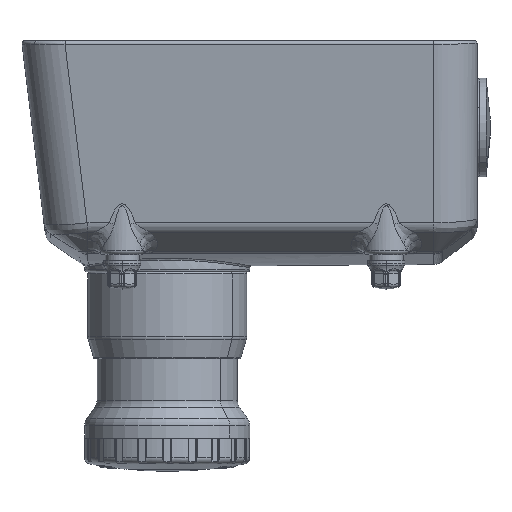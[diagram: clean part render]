
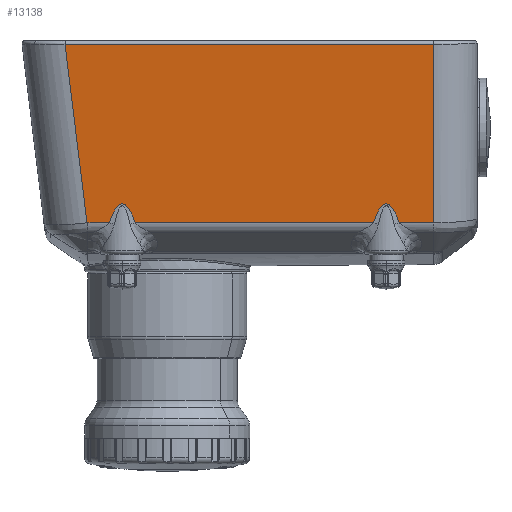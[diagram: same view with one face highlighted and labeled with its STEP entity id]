
A CAD part, left-side view. The second image highlights one B-rep face of the part: STEP entity #13138.
In plain terms, the highlighted planar face has unit normal (-0.993, 0, -0.122).
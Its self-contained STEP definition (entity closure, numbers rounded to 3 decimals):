
#85 = VECTOR ( 'NONE', #120199, 1000. ) ;
#894 = DIRECTION ( 'NONE',  ( 0., -1., 0. ) ) ;
#1217 = DIRECTION ( 'NONE',  ( -0.122, 0., 0.993 ) ) ;
#5094 = EDGE_CURVE ( 'NONE', #46659, #27087, #105774, .T. ) ;
#8023 = ORIENTED_EDGE ( 'NONE', *, *, #119139, .T. ) ;
#10262 = CARTESIAN_POINT ( 'NONE',  ( -33.964, 100.172, -44.091 ) ) ;
#11808 = CARTESIAN_POINT ( 'NONE',  ( -39.378, -43.5, 0. ) ) ;
#13113 = VECTOR ( 'NONE', #77561, 1000. ) ;
#13138 = ADVANCED_FACE ( 'NONE', ( #96626 ), #76126, .T. ) ;
#16622 = CARTESIAN_POINT ( 'NONE',  ( -39.281, -43.5, -0.785 ) ) ;
#17928 = EDGE_CURVE ( 'NONE', #114883, #92971, #39530, .T. ) ;
#18949 = CARTESIAN_POINT ( 'NONE',  ( -34.722, -30.911, -37.923 ) ) ;
#20184 = CARTESIAN_POINT ( 'NONE',  ( -34.722, -33.089, -37.923 ) ) ;
#20297 = VERTEX_POINT ( 'NONE', #66901 ) ;
#26913 = EDGE_CURVE ( 'NONE', #84987, #37328, #79736, .T. ) ;
#27087 = VERTEX_POINT ( 'NONE', #32953 ) ;
#27215 = CARTESIAN_POINT ( 'NONE',  ( -34.722, 33.089, -37.923 ) ) ;
#32953 = CARTESIAN_POINT ( 'NONE',  ( -33.964, -35.13, -44.091 ) ) ;
#37243 = EDGE_CURVE ( 'NONE', #20297, #56404, #95650, .T. ) ;
#37328 = VERTEX_POINT ( 'NONE', #16622 ) ;
#37973 = ORIENTED_EDGE ( 'NONE', *, *, #37243, .T. ) ;
#38893 = CARTESIAN_POINT ( 'NONE',  ( -33.964, -35.13, -44.091 ) ) ;
#39530 = LINE ( 'NONE', #105552, #13113 ) ;
#42984 = ORIENTED_EDGE ( 'NONE', *, *, #17928, .T. ) ;
#43023 = DIRECTION ( 'NONE',  ( 0., -1., 0. ) ) ;
#46659 = VERTEX_POINT ( 'NONE', #96502 ) ;
#52929 = EDGE_CURVE ( 'NONE', #92971, #20297, #89311, .T. ) ;
#53542 = CARTESIAN_POINT ( 'NONE',  ( -33.964, 40.542, -44.091 ) ) ;
#54035 = CARTESIAN_POINT ( 'NONE',  ( -33.964, 28.87, -44.091 ) ) ;
#54183 = LINE ( 'NONE', #82237, #85 ) ;
#55164 = EDGE_CURVE ( 'NONE', #56404, #46659, #59875, .T. ) ;
#55900 = CARTESIAN_POINT ( 'NONE',  ( -34.722, 30.911, -37.923 ) ) ;
#56404 = VERTEX_POINT ( 'NONE', #57105 ) ;
#57105 = CARTESIAN_POINT ( 'NONE',  ( -33.964, 28.87, -44.091 ) ) ;
#58016 = DIRECTION ( 'NONE',  ( 0.122, 0., -0.993 ) ) ;
#59875 = LINE ( 'NONE', #79184, #69360 ) ;
#65415 = VECTOR ( 'NONE', #894, 1000. ) ;
#66901 = CARTESIAN_POINT ( 'NONE',  ( -33.964, 35.13, -44.091 ) ) ;
#69360 = VECTOR ( 'NONE', #43023, 1000. ) ;
#71241 = DIRECTION ( 'NONE',  ( 0., -1., 0. ) ) ;
#72558 = EDGE_CURVE ( 'NONE', #27087, #84987, #95634, .T. ) ;
#73748 = ORIENTED_EDGE ( 'NONE', *, *, #55164, .T. ) ;
#76126 = PLANE ( 'NONE',  #112338 ) ;
#76313 = CARTESIAN_POINT ( 'NONE',  ( -33.964, -28.87, -44.091 ) ) ;
#77561 = DIRECTION ( 'NONE',  ( 0.121, -0.121, -0.985 ) ) ;
#79184 = CARTESIAN_POINT ( 'NONE',  ( -33.964, 100.172, -44.091 ) ) ;
#79736 = LINE ( 'NONE', #11808, #102746 ) ;
#82237 = CARTESIAN_POINT ( 'NONE',  ( -39.281, 45.956, -0.785 ) ) ;
#82698 = CARTESIAN_POINT ( 'NONE',  ( -33.964, 35.13, -44.091 ) ) ;
#82724 = ORIENTED_EDGE ( 'NONE', *, *, #26913, .T. ) ;
#84987 = VERTEX_POINT ( 'NONE', #91984 ) ;
#87067 = ORIENTED_EDGE ( 'NONE', *, *, #5094, .T. ) ;
#88416 = ORIENTED_EDGE ( 'NONE', *, *, #52929, .T. ) ;
#89311 = LINE ( 'NONE', #109194, #112739 ) ;
#91984 = CARTESIAN_POINT ( 'NONE',  ( -33.964, -43.5, -44.091 ) ) ;
#92971 = VERTEX_POINT ( 'NONE', #53542 ) ;
#93345 = EDGE_LOOP ( 'NONE', ( #82724, #8023, #42984, #88416, #37973, #73748, #87067, #116385 ) ) ;
#95634 = LINE ( 'NONE', #10262, #65415 ) ;
#95650 =( BOUNDED_CURVE ( )  B_SPLINE_CURVE ( 3, ( #82698, #27215, #55900, #54035 ),
 .UNSPECIFIED., .F., .F. ) 
 B_SPLINE_CURVE_WITH_KNOTS ( ( 4, 4 ),
 ( 5.928, 6.638 ),
 .UNSPECIFIED. ) 
 CURVE ( )  GEOMETRIC_REPRESENTATION_ITEM ( )  RATIONAL_B_SPLINE_CURVE ( ( 1., 0.958, 0.958, 1. ) ) 
 REPRESENTATION_ITEM ( '' )  );
#96502 = CARTESIAN_POINT ( 'NONE',  ( -33.964, -28.87, -44.091 ) ) ;
#96626 = FACE_OUTER_BOUND ( 'NONE', #93345, .T. ) ;
#102746 = VECTOR ( 'NONE', #1217, 1000. ) ;
#105552 = CARTESIAN_POINT ( 'NONE',  ( -33.453, 40.031, -48.258 ) ) ;
#105774 =( BOUNDED_CURVE ( )  B_SPLINE_CURVE ( 3, ( #76313, #18949, #20184, #38893 ),
 .UNSPECIFIED., .F., .F. ) 
 B_SPLINE_CURVE_WITH_KNOTS ( ( 4, 4 ),
 ( 5.928, 6.638 ),
 .UNSPECIFIED. ) 
 CURVE ( )  GEOMETRIC_REPRESENTATION_ITEM ( )  RATIONAL_B_SPLINE_CURVE ( ( 1., 0.958, 0.958, 1. ) ) 
 REPRESENTATION_ITEM ( '' )  );
#109194 = CARTESIAN_POINT ( 'NONE',  ( -33.964, 100.172, -44.091 ) ) ;
#112338 = AXIS2_PLACEMENT_3D ( 'NONE', #114078, #116547, #58016 ) ;
#112739 = VECTOR ( 'NONE', #71241, 1000. ) ;
#114078 = CARTESIAN_POINT ( 'NONE',  ( -33.3, 100.172, -49.5 ) ) ;
#114883 = VERTEX_POINT ( 'NONE', #117678 ) ;
#116385 = ORIENTED_EDGE ( 'NONE', *, *, #72558, .T. ) ;
#116547 = DIRECTION ( 'NONE',  ( -0.993, 0., -0.122 ) ) ;
#117678 = CARTESIAN_POINT ( 'NONE',  ( -39.281, 45.86, -0.785 ) ) ;
#119139 = EDGE_CURVE ( 'NONE', #37328, #114883, #54183, .T. ) ;
#120199 = DIRECTION ( 'NONE',  ( 0., 1., 0. ) ) ;
